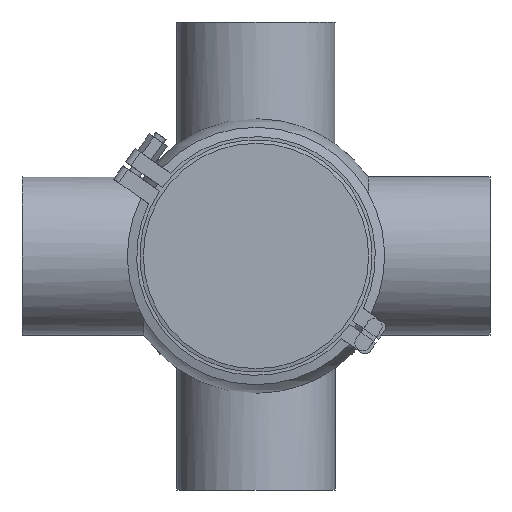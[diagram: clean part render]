
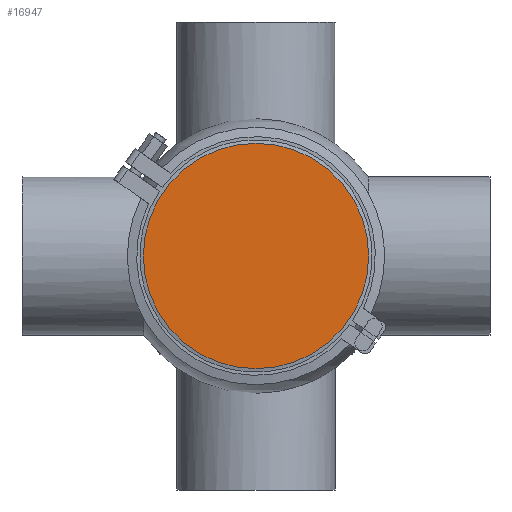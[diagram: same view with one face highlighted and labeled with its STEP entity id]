
A CAD part, front view. The second image highlights one B-rep face of the part: STEP entity #16947.
In plain terms, the highlighted planar face has unit normal (0, -1, 0).
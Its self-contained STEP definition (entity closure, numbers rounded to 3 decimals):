
#295 = CIRCLE ( 'NONE', #12362, 72.25 ) ;
#1192 = CARTESIAN_POINT ( 'NONE',  ( 0., 0., 72.25 ) ) ;
#1938 = EDGE_CURVE ( 'NONE', #7728, #7728, #295, .T. ) ;
#3100 = CARTESIAN_POINT ( 'NONE',  ( 0., 0., 0. ) ) ;
#3649 = DIRECTION ( 'NONE',  ( 0., -1., 0. ) ) ;
#5966 = EDGE_LOOP ( 'NONE', ( #20983 ) ) ;
#7728 = VERTEX_POINT ( 'NONE', #1192 ) ;
#9647 = DIRECTION ( 'NONE',  ( 0., 1., 0. ) ) ;
#10107 = FACE_OUTER_BOUND ( 'NONE', #5966, .T. ) ;
#11856 = PLANE ( 'NONE',  #18781 ) ;
#12362 = AXIS2_PLACEMENT_3D ( 'NONE', #3100, #9647, #16230 ) ;
#14863 = CARTESIAN_POINT ( 'NONE',  ( -72.25, 0., 0. ) ) ;
#16230 = DIRECTION ( 'NONE',  ( 0., 0., 1. ) ) ;
#16473 = DIRECTION ( 'NONE',  ( 0., 0., -1. ) ) ;
#16947 = ADVANCED_FACE ( 'NONE', ( #10107 ), #11856, .T. ) ;
#18781 = AXIS2_PLACEMENT_3D ( 'NONE', #14863, #3649, #16473 ) ;
#20983 = ORIENTED_EDGE ( 'NONE', *, *, #1938, .F. ) ;
